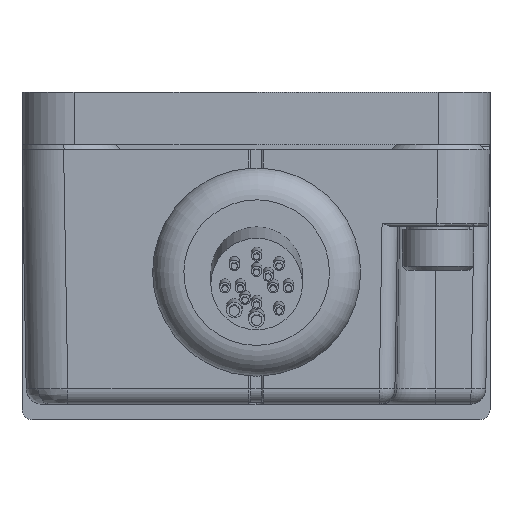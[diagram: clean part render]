
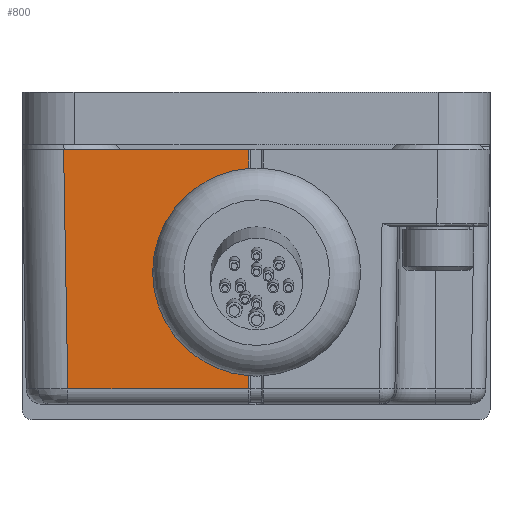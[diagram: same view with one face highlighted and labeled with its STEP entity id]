
A CAD part, front view. The second image highlights one B-rep face of the part: STEP entity #800.
In plain terms, the highlighted planar face has unit normal (0, -1, -0.018).
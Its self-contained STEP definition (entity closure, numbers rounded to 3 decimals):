
#800=ADVANCED_FACE('NONE',(#1724),#1725,.T.);
#1724=FACE_OUTER_BOUND('',#3004,.T.);
#1725=PLANE('',#3005);
#3004=EDGE_LOOP('',(#5064,#5065,#5066,#5067,#5068,#5069));
#3005=AXIS2_PLACEMENT_3D('',#5070,#5071,#5072);
#5064=ORIENTED_EDGE('',*,*,#5907,.T.);
#5065=ORIENTED_EDGE('',*,*,#5453,.T.);
#5066=ORIENTED_EDGE('',*,*,#5859,.T.);
#5067=ORIENTED_EDGE('',*,*,#5830,.T.);
#5068=ORIENTED_EDGE('',*,*,#5840,.T.);
#5069=ORIENTED_EDGE('',*,*,#5725,.T.);
#5070=CARTESIAN_POINT('',(22.5,-57.0,17.0));
#5071=DIRECTION('',(0.0,-1.,-0.017));
#5072=DIRECTION('',(0.0,0.017,-1.));
#5453=EDGE_CURVE('NONE',#6406,#6404,#6407,.T.);
#5725=EDGE_CURVE('NONE',#6801,#6799,#6802,.T.);
#5830=EDGE_CURVE('NONE',#6951,#6949,#6952,.T.);
#5840=EDGE_CURVE('NONE',#6949,#6801,#6963,.T.);
#5859=EDGE_CURVE('NONE',#6404,#6951,#6985,.T.);
#5907=EDGE_CURVE('NONE',#6799,#6406,#7038,.T.);
#6404=VERTEX_POINT('NONE',#7967);
#6406=VERTEX_POINT('NONE',#7969);
#6407=CIRCLE('',#7970,10.0);
#6799=VERTEX_POINT('NONE',#8612);
#6801=VERTEX_POINT('NONE',#8614);
#6802=LINE('',#8615,#8616);
#6949=VERTEX_POINT('NONE',#8841);
#6951=VERTEX_POINT('NONE',#8853);
#6952=LINE('',#8854,#8855);
#6963=LINE('',#8913,#8914);
#6985=LINE('',#8967,#8968);
#7038=LINE('',#9068,#9069);
#7967=CARTESIAN_POINT('',(-0.7,-56.968,15.175));
#7969=CARTESIAN_POINT('',(-0.7,-56.62,-4.764));
#7970=AXIS2_PLACEMENT_3D('',#9442,#9443,#9444);
#8612=CARTESIAN_POINT('',(-0.7,-56.598,-6.026));
#8614=CARTESIAN_POINT('',(-18.099,-56.598,-6.026));
#8615=CARTESIAN_POINT('',(22.5,-56.598,-6.026));
#8616=VECTOR('',#9776,1.0);
#8841=CARTESIAN_POINT('',(-18.501,-57.0,17.0));
#8853=CARTESIAN_POINT('',(-0.7,-57.0,17.0));
#8854=CARTESIAN_POINT('',(22.5,-57.0,17.0));
#8855=VECTOR('',#9919,1.0);
#8913=CARTESIAN_POINT('',(-18.488,-56.988,16.285));
#8914=VECTOR('',#9922,1.0);
#8967=CARTESIAN_POINT('',(-0.7,-57.,16.997));
#8968=VECTOR('',#9933,1.0);
#9068=CARTESIAN_POINT('',(-0.7,-57.,16.997));
#9069=VECTOR('',#9965,1.0);
#9442=CARTESIAN_POINT('',(0.063,-56.794,5.205));
#9443=DIRECTION('',(0.,1.,0.017));
#9444=DIRECTION('',(-0.017,0.017,-1.));
#9776=DIRECTION('',(1.0,0.0,0.0));
#9919=DIRECTION('',(-1.0,0.0,0.0));
#9922=DIRECTION('',(0.017,0.017,-1.));
#9933=DIRECTION('',(0.0,-0.017,1.));
#9965=DIRECTION('',(0.0,-0.017,1.));
